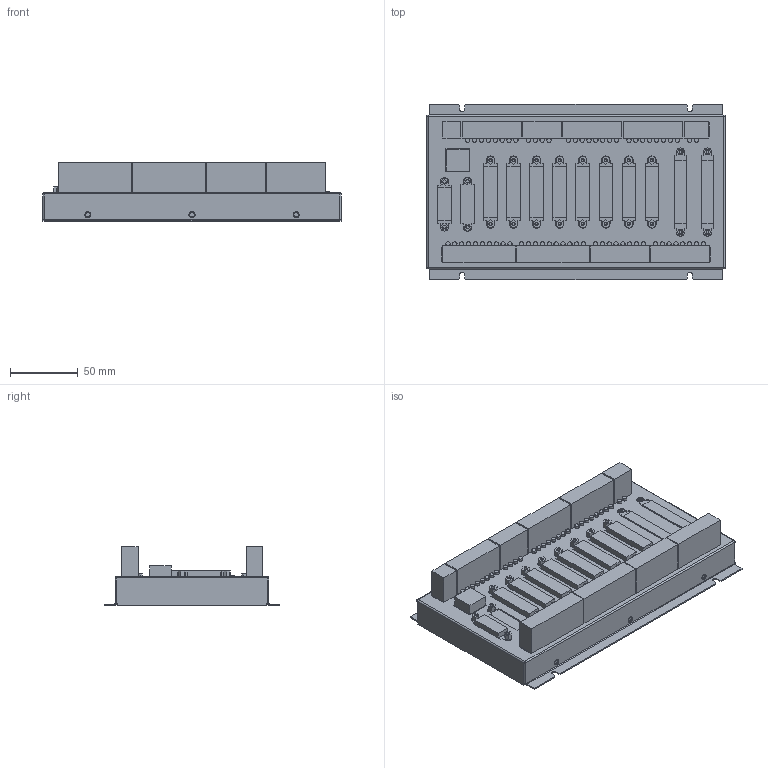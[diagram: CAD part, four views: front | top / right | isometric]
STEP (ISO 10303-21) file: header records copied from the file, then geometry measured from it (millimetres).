
FILE_DESCRIPTION (( 'STEP AP203' ), '1' );
FILE_NAME ('耀倰芞.STEP', '2020-11-25T05:00:36', ( 'Windows 蚚誧' ), ( ' ' ), 'SwSTEP 2.0', 'SolidWorks 2014', '' );
FILE_SCHEMA (( 'CONFIG_CONTROL_DESIGN' ));
Length unit declared in the file: millimetre
Products named in the file (1): 耀倰芞
Bounding box: 220 x 129.5 x 43.5 mm (x, y, z)
Volume: 636105.8 mm3; surface area: 147485.2 mm2
Topology: 37 solids, 103 shells, 1197 faces, 2872 edges, 1868 vertices
Faces by surface type: plane 699, cylinder 446, cone 44, bspline 8
Entity records: 34823 total; most frequent: DIRECTION 6180, CARTESIAN_POINT 6050, ORIENTED_EDGE 5728, EDGE_CURVE 2864, AXIS2_PLACEMENT_3D 2126, LINE 1928, VECTOR 1928, VERTEX_POINT 1868
